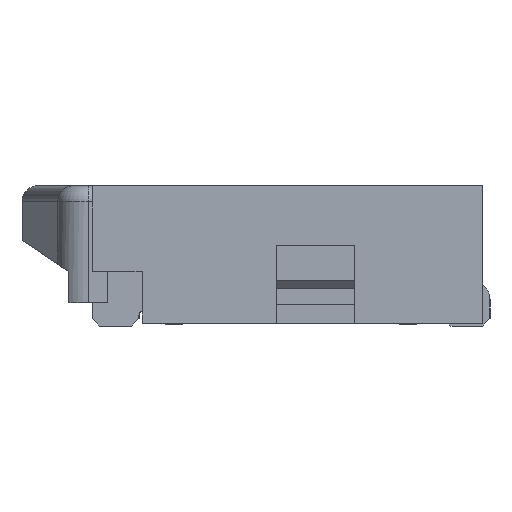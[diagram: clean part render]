
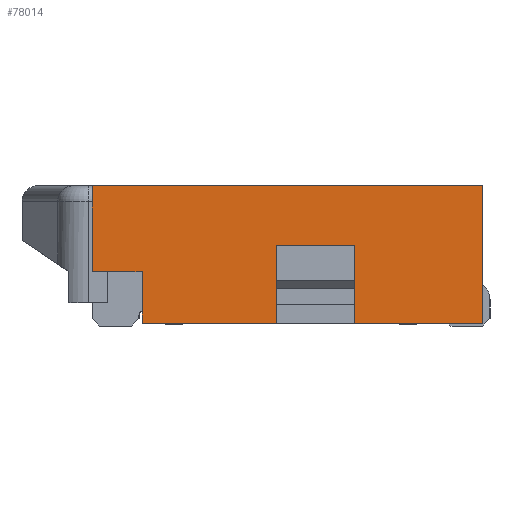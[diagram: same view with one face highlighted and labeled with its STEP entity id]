
A CAD part, left-side view. The second image highlights one B-rep face of the part: STEP entity #78014.
In plain terms, the highlighted planar face has unit normal (-1, 0, 0).
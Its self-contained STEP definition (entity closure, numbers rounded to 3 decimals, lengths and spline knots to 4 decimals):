
#2474 = CARTESIAN_POINT ( 'NONE',  ( -6., -2.4, 0. ) ) ;
#2480 = FACE_OUTER_BOUND ( 'NONE', #23450, .T. ) ;
#2481 = PLANE ( 'NONE',  #36118 ) ;
#2483 = DIRECTION ( 'NONE',  ( 1., 0., 0. ) ) ;
#2484 = DIRECTION ( 'NONE',  ( 0., 1., 0. ) ) ;
#12593 = LINE ( 'NONE', #12594, #38751 ) ;
#12594 = CARTESIAN_POINT ( 'NONE',  ( -6., 0., -0.55 ) ) ;
#12595 = DIRECTION ( 'NONE',  ( 0., 1., 0. ) ) ;
#12913 = LINE ( 'NONE', #12915, #37245 ) ;
#12915 = CARTESIAN_POINT ( 'NONE',  ( -6., -0.32, -0.88 ) ) ;
#12916 = DIRECTION ( 'NONE',  ( 0., 0., 1. ) ) ;
#12932 = LINE ( 'NONE', #12944, #37253 ) ;
#12944 = CARTESIAN_POINT ( 'NONE',  ( -6., -1.18, -0.38 ) ) ;
#12945 = DIRECTION ( 'NONE',  ( 0., -1., 0. ) ) ;
#12976 = LINE ( 'NONE', #12977, #37267 ) ;
#12977 = CARTESIAN_POINT ( 'NONE',  ( -6., -1.18, -0.38 ) ) ;
#12978 = DIRECTION ( 'NONE',  ( 0., 0., -1. ) ) ;
#12984 = LINE ( 'NONE', #13004, #37275 ) ;
#13004 = CARTESIAN_POINT ( 'NONE',  ( -6., -1.68, -0.38 ) ) ;
#13005 = DIRECTION ( 'NONE',  ( 0., 0., -1. ) ) ;
#13864 = LINE ( 'NONE', #13867, #38586 ) ;
#13867 = CARTESIAN_POINT ( 'NONE',  ( -6., -2.5, -0.88 ) ) ;
#13869 = DIRECTION ( 'NONE',  ( 0., -1., 0. ) ) ;
#13870 = LINE ( 'NONE', #13873, #38587 ) ;
#13873 = CARTESIAN_POINT ( 'NONE',  ( -6., -2.5, -0.88 ) ) ;
#13875 = DIRECTION ( 'NONE',  ( 0., -1., 0. ) ) ;
#23450 = EDGE_LOOP ( 'NONE', ( #98503, #98506, #98509, #98512, #98514, #98517, #98520, #98523, #98525, #98528 ) ) ;
#26069 = VERTEX_POINT ( 'NONE', #32724 ) ;
#26073 = VERTEX_POINT ( 'NONE', #32730 ) ;
#26688 = VERTEX_POINT ( 'NONE', #32767 ) ;
#26693 = VERTEX_POINT ( 'NONE', #32772 ) ;
#27243 = VERTEX_POINT ( 'NONE', #32828 ) ;
#32260 = VERTEX_POINT ( 'NONE', #32844 ) ;
#32284 = VERTEX_POINT ( 'NONE', #32854 ) ;
#32724 = CARTESIAN_POINT ( 'NONE',  ( -6., -0.32, -0.55 ) ) ;
#32730 = CARTESIAN_POINT ( 'NONE',  ( -6., -1.18, -0.38 ) ) ;
#32767 = CARTESIAN_POINT ( 'NONE',  ( -6., 0., -0.55 ) ) ;
#32772 = CARTESIAN_POINT ( 'NONE',  ( -6., -1.18, -0.88 ) ) ;
#32828 = CARTESIAN_POINT ( 'NONE',  ( -6., -1.68, -0.38 ) ) ;
#32844 = CARTESIAN_POINT ( 'NONE',  ( -6., -0.32, -0.88 ) ) ;
#32854 = CARTESIAN_POINT ( 'NONE',  ( -6., -1.68, -0.88 ) ) ;
#35412 = VECTOR ( 'NONE', #83007, 1000. ) ;
#35414 = VECTOR ( 'NONE', #83012, 1000. ) ;
#36118 = AXIS2_PLACEMENT_3D ( 'NONE', #2474, #2483, #2484 ) ;
#37245 = VECTOR ( 'NONE', #12916, 1000. ) ;
#37253 = VECTOR ( 'NONE', #12945, 1000. ) ;
#37267 = VECTOR ( 'NONE', #12978, 1000. ) ;
#37275 = VECTOR ( 'NONE', #13005, 1000. ) ;
#38586 = VECTOR ( 'NONE', #13869, 1000. ) ;
#38587 = VECTOR ( 'NONE', #13875, 1000. ) ;
#38751 = VECTOR ( 'NONE', #12595, 1000. ) ;
#48489 = EDGE_CURVE ( 'NONE', #90301, #90885, #59986, .T. ) ;
#51888 = VECTOR ( 'NONE', #60008, 1000. ) ;
#59986 = LINE ( 'NONE', #60006, #51888 ) ;
#60006 = CARTESIAN_POINT ( 'NONE',  ( -6., -2.5, -0.88 ) ) ;
#60008 = DIRECTION ( 'NONE',  ( 0., 0., 1. ) ) ;
#60708 = CARTESIAN_POINT ( 'NONE',  ( -6., -2.5, 0. ) ) ;
#62685 = CARTESIAN_POINT ( 'NONE',  ( -6., -2.5, -0.88 ) ) ;
#76738 = EDGE_CURVE ( 'NONE', #32260, #26693, #13864, .T. ) ;
#76739 = EDGE_CURVE ( 'NONE', #32284, #90301, #13870, .T. ) ;
#76984 = EDGE_CURVE ( 'NONE', #26069, #26688, #12593, .T. ) ;
#77169 = EDGE_CURVE ( 'NONE', #32260, #26069, #12913, .T. ) ;
#77190 = EDGE_CURVE ( 'NONE', #26073, #27243, #12932, .T. ) ;
#77212 = EDGE_CURVE ( 'NONE', #26073, #26693, #12976, .T. ) ;
#77229 = EDGE_CURVE ( 'NONE', #27243, #32284, #12984, .T. ) ;
#78014 = ADVANCED_FACE ( 'NONE', ( #2480 ), #2481, .F. ) ;
#83004 = LINE ( 'NONE', #83005, #35412 ) ;
#83005 = CARTESIAN_POINT ( 'NONE',  ( -6., 0., 0. ) ) ;
#83007 = DIRECTION ( 'NONE',  ( 0., 1., 0. ) ) ;
#83008 = LINE ( 'NONE', #83010, #35414 ) ;
#83010 = CARTESIAN_POINT ( 'NONE',  ( -6., 0., 0. ) ) ;
#83012 = DIRECTION ( 'NONE',  ( 0., 0., -1. ) ) ;
#90301 = VERTEX_POINT ( 'NONE', #62685 ) ;
#90885 = VERTEX_POINT ( 'NONE', #60708 ) ;
#96612 = EDGE_CURVE ( 'NONE', #90885, #106328, #83004, .T. ) ;
#96615 = EDGE_CURVE ( 'NONE', #106328, #26688, #83008, .T. ) ;
#98503 = ORIENTED_EDGE ( 'NONE', *, *, #77212, .F. ) ;
#98506 = ORIENTED_EDGE ( 'NONE', *, *, #77190, .T. ) ;
#98509 = ORIENTED_EDGE ( 'NONE', *, *, #77229, .T. ) ;
#98512 = ORIENTED_EDGE ( 'NONE', *, *, #76739, .T. ) ;
#98514 = ORIENTED_EDGE ( 'NONE', *, *, #48489, .T. ) ;
#98517 = ORIENTED_EDGE ( 'NONE', *, *, #96612, .T. ) ;
#98520 = ORIENTED_EDGE ( 'NONE', *, *, #96615, .T. ) ;
#98523 = ORIENTED_EDGE ( 'NONE', *, *, #76984, .F. ) ;
#98525 = ORIENTED_EDGE ( 'NONE', *, *, #77169, .F. ) ;
#98528 = ORIENTED_EDGE ( 'NONE', *, *, #76738, .T. ) ;
#104471 = CARTESIAN_POINT ( 'NONE',  ( -6., 0., 0. ) ) ;
#106328 = VERTEX_POINT ( 'NONE', #104471 ) ;
